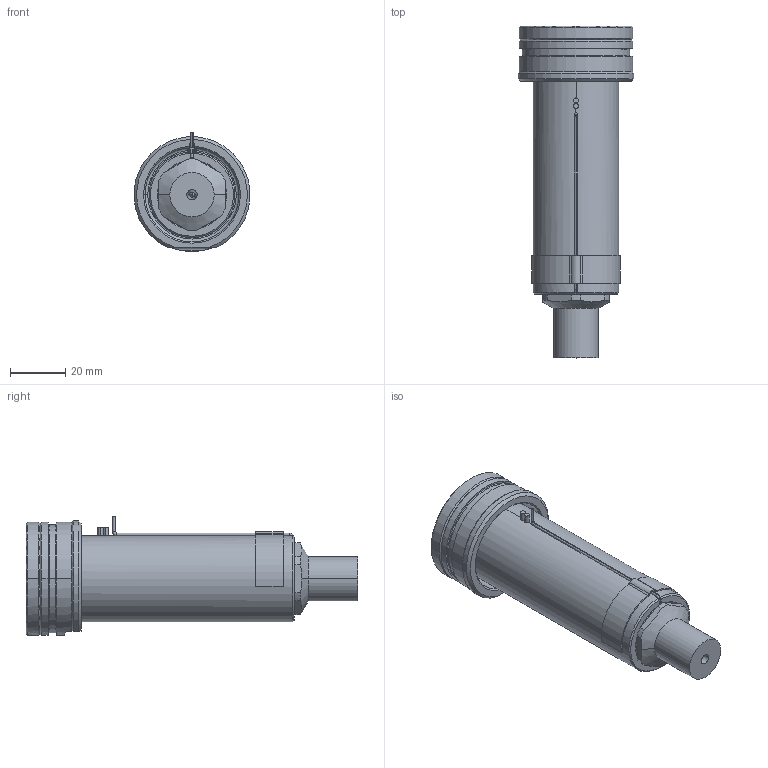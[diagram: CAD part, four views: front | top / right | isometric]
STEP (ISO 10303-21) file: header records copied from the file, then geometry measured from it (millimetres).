
FILE_DESCRIPTION((''),'2;1');
FILE_NAME('EO12_PG-FBE_STD_090_SW','2024-02-19T12:02:03',('sundharh'),(''),'CREO PARAMETRIC BY PTC INC, 2023154','CREO PARAMETRIC BY PTC INC, 2023154','');
FILE_SCHEMA(('CONFIG_CONTROL_DESIGN'));
Length unit declared in the file: millimetre
Products named in the file (1): EO12_PG-FBE_STD_090_SW
Bounding box: 41.85 x 120 x 43 mm (x, y, z)
Volume: 77009.1 mm3; surface area: 23593.4 mm2
Topology: 2 solids, 3 shells, 220 faces, 587 edges, 361 vertices
Faces by surface type: cylinder 82, plane 60, cone 45, torus 27, sphere 3, bspline 3
Entity records: 7921 total; most frequent: CARTESIAN_POINT 2308, DIRECTION 1237, ORIENTED_EDGE 1166, EDGE_CURVE 583, AXIS2_PLACEMENT_3D 520, VERTEX_POINT 361, CIRCLE 303, EDGE_LOOP 238
